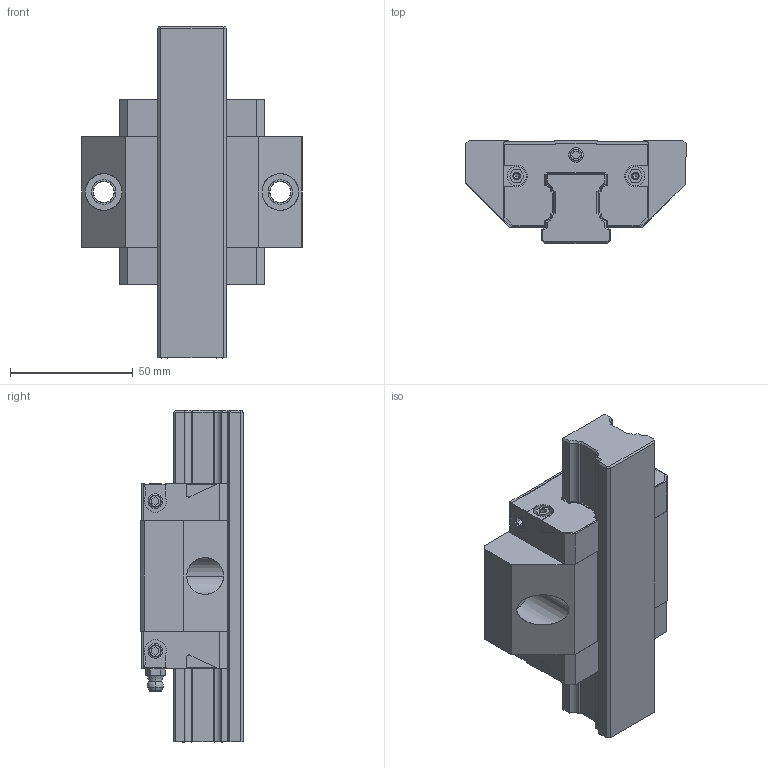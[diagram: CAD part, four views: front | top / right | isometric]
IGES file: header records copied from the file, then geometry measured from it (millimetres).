
Start section: 3D InterOp IGES (v. 2019 1.0.2), Spatial Corp. Copyright (c) 1999-2017.
Global section: file name: R1665_size30.igs; native system: Spatial Corp.; preprocessor: 3D InterOp GENERIC/IGES 3.0; author: Noname; organization: Noname; date: 20220629.125025; units: millimetre
Bounding box: 90 x 42 x 135.3 mm (x, y, z)
Surface area: 56678.4 mm2 (no closed solid volume)
Topology: 0 solids, 0 shells, 517 faces, 2732 edges, 2710 vertices
Faces by surface type: extrusion 300, revolution 217
